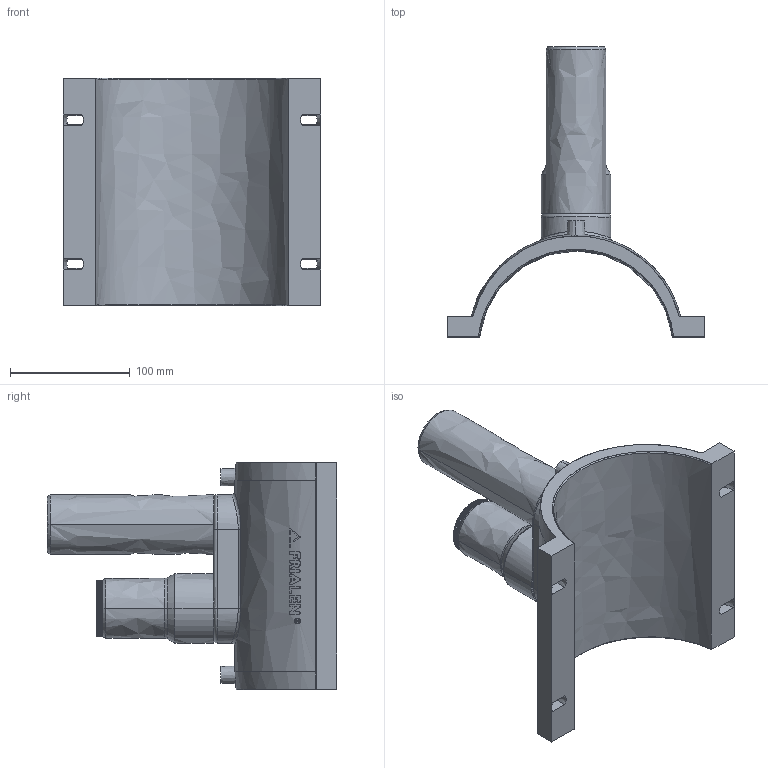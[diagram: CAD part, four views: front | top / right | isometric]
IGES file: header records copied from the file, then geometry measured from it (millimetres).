
Start section:  PTC IGES file: dap_d160_50_01.igs
Global section: file name: dap_d160_50_01.igs; native system: Pro/ENGINEER by Parametric Technology Corporation; preprocessor: 2011490; author: mtunjic; organization: Unknown; date: 20130909.082332; units: millimetre
Bounding box: 215 x 242 x 190 mm (x, y, z)
Surface area: 184008.3 mm2 (no closed solid volume)
Topology: 0 solids, 0 shells, 731 faces, 4212 edges, 4208 vertices
Faces by surface type: bspline 731
